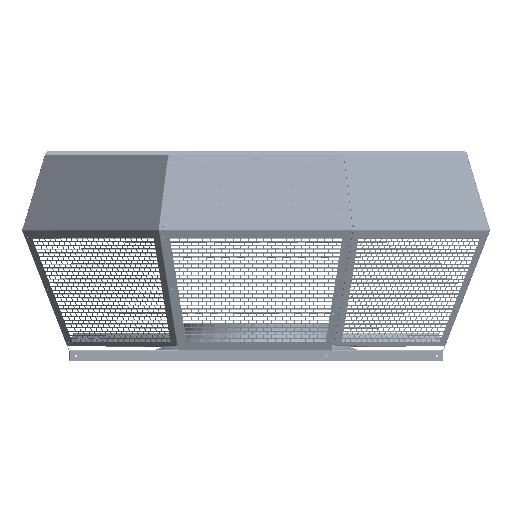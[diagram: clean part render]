
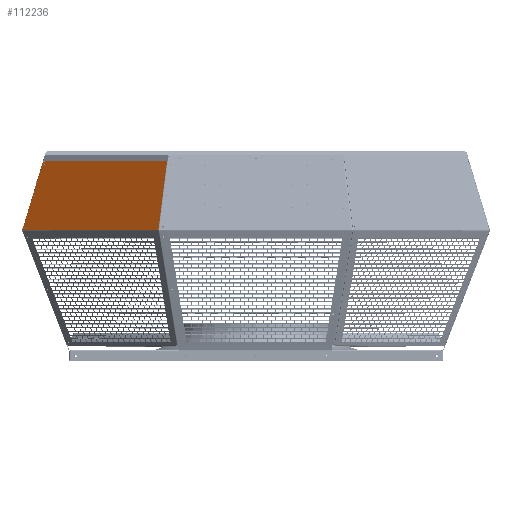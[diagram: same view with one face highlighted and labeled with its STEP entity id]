
A CAD part, top view. The second image highlights one B-rep face of the part: STEP entity #112236.
In plain terms, the highlighted planar face has unit normal (-0.677, 0.288, 0.677).
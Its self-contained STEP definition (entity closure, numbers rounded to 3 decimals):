
#51087 = CARTESIAN_POINT ( 'NONE',  ( -551.811, 83.422, 236.794 ) ) ;
#51526 = CARTESIAN_POINT ( 'NONE',  ( -222.391, 170.987, 528.943 ) ) ;
#52068 = CARTESIAN_POINT ( 'NONE',  ( -528.489, 160.914, 227.133 ) ) ;
#52528 = CARTESIAN_POINT ( 'NONE',  ( -550.955, 87.443, 235.938 ) ) ;
#53372 = CARTESIAN_POINT ( 'NONE',  ( -243.294, 1.075, 580.36 ) ) ;
#53857 = CARTESIAN_POINT ( 'NONE',  ( -222.351, 171.31, 528.846 ) ) ;
#53957 = CARTESIAN_POINT ( 'NONE',  ( -243.211, 1.127, 580.42 ) ) ;
#54181 = CARTESIAN_POINT ( 'NONE',  ( -530.847, 171.413, 220.305 ) ) ;
#54224 = CARTESIAN_POINT ( 'NONE',  ( -222.346, 171.31, 528.85 ) ) ;
#54267 = CARTESIAN_POINT ( 'NONE',  ( -582.112, 1.075, 241.542 ) ) ;
#54288 = CARTESIAN_POINT ( 'NONE',  ( -222.035, 170.987, 529.299 ) ) ;
#54298 = CARTESIAN_POINT ( 'NONE',  ( -243.287, 1.106, 580.353 ) ) ;
#54527 = CARTESIAN_POINT ( 'NONE',  ( -527.633, 164.935, 226.277 ) ) ;
#54628 = CARTESIAN_POINT ( 'NONE',  ( -222.332, 171.413, 528.821 ) ) ;
#78995 = CARTESIAN_POINT ( 'NONE',  ( -574.277, 9.951, 245.599 ) ) ;
#79006 = CARTESIAN_POINT ( 'NONE',  ( -575.133, 5.93, 246.454 ) ) ;
#112236 = ADVANCED_FACE ( 'NONE', ( #336955, #336914, #336941, #336950 ), #342925, .F. ) ;
#119699 = EDGE_CURVE ( 'NONE', #445368, #445371, #481087, .T. ) ;
#132789 = EDGE_LOOP ( 'NONE', ( #328458, #328462 ) ) ;
#132794 = EDGE_LOOP ( 'NONE', ( #328484, #328488, #328495, #328500, #328503, #328507, #328512, #328516, #328523, #328528 ) ) ;
#132806 = EDGE_LOOP ( 'NONE', ( #328468, #328471 ) ) ;
#132822 = EDGE_LOOP ( 'NONE', ( #328475, #328480 ) ) ;
#160613 = LINE ( 'NONE', #161875, #160620 ) ;
#160620 = VECTOR ( 'NONE', #161880, 1000. ) ;
#160640 = LINE ( 'NONE', #161945, #160648 ) ;
#160648 = VECTOR ( 'NONE', #161952, 1000. ) ;
#160705 = LINE ( 'NONE', #162114, #160710 ) ;
#160710 = VECTOR ( 'NONE', #162120, 1000. ) ;
#161037 = CIRCLE ( 'NONE', #453556, 2.1 ) ;
#161047 = CIRCLE ( 'NONE', #453560, 2.1 ) ;
#161875 = CARTESIAN_POINT ( 'NONE',  ( -205.291, 171.413, 545.862 ) ) ;
#161880 = DIRECTION ( 'NONE',  ( 0.707, 0., 0.707 ) ) ;
#161945 = CARTESIAN_POINT ( 'NONE',  ( -530.878, 171.31, 220.318 ) ) ;
#161952 = DIRECTION ( 'NONE',  ( 0.286, 0.951, -0.119 ) ) ;
#162114 = CARTESIAN_POINT ( 'NONE',  ( -243.251, 0.808, 580.516 ) ) ;
#162120 = DIRECTION ( 'NONE',  ( 0.119, 0.951, -0.286 ) ) ;
#162893 = CARTESIAN_POINT ( 'NONE',  ( -574.705, 7.941, 246.027 ) ) ;
#162897 = DIRECTION ( 'NONE',  ( -0.677, 0.288, 0.677 ) ) ;
#162900 = DIRECTION ( 'NONE',  ( -0.204, -0.958, 0.204 ) ) ;
#162919 = CARTESIAN_POINT ( 'NONE',  ( -528.061, 162.924, 226.705 ) ) ;
#162923 = DIRECTION ( 'NONE',  ( -0.677, 0.288, 0.677 ) ) ;
#162926 = DIRECTION ( 'NONE',  ( -0.204, -0.958, 0.204 ) ) ;
#162943 = CARTESIAN_POINT ( 'NONE',  ( -528.061, 162.924, 226.705 ) ) ;
#162946 = DIRECTION ( 'NONE',  ( -0.677, 0.288, 0.677 ) ) ;
#162949 = DIRECTION ( 'NONE',  ( -0.204, -0.958, 0.204 ) ) ;
#162968 = CARTESIAN_POINT ( 'NONE',  ( -551.383, 85.433, 236.366 ) ) ;
#162972 = DIRECTION ( 'NONE',  ( -0.677, 0.288, 0.677 ) ) ;
#162976 = DIRECTION ( 'NONE',  ( -0.204, -0.958, 0.204 ) ) ;
#162991 = CARTESIAN_POINT ( 'NONE',  ( -220.881, 181.844, 525.832 ) ) ;
#162994 = CARTESIAN_POINT ( 'NONE',  ( -551.383, 85.433, 236.366 ) ) ;
#162998 = DIRECTION ( 'NONE',  ( -0.677, 0.288, 0.677 ) ) ;
#163002 = DIRECTION ( 'NONE',  ( -0.204, -0.958, 0.204 ) ) ;
#163008 = CARTESIAN_POINT ( 'NONE',  ( -221.995, 171.31, 529.202 ) ) ;
#163013 = DIRECTION ( 'NONE',  ( 0.707, 0., 0.707 ) ) ;
#163021 = CARTESIAN_POINT ( 'NONE',  ( -243.674, -0.713, 580.74 ) ) ;
#163027 = DIRECTION ( 'NONE',  ( -0.133, -0.953, 0.273 ) ) ;
#163046 = CARTESIAN_POINT ( 'NONE',  ( -241.542, 1.075, 582.112 ) ) ;
#163053 = DIRECTION ( 'NONE',  ( -0.707, 0., -0.707 ) ) ;
#163065 = DIRECTION ( 'NONE',  ( -0.204, -0.958, 0.204 ) ) ;
#163084 = CARTESIAN_POINT ( 'NONE',  ( -231.607, 4.225, 590.706 ) ) ;
#163090 = DIRECTION ( 'NONE',  ( -0.734, -0.196, -0.65 ) ) ;
#163102 = CARTESIAN_POINT ( 'NONE',  ( -222.391, 170.987, 528.943 ) ) ;
#163109 = DIRECTION ( 'NONE',  ( 0.707, 0., 0.707 ) ) ;
#163122 = CARTESIAN_POINT ( 'NONE',  ( -243.711, -0.025, 580.411 ) ) ;
#163128 = DIRECTION ( 'NONE',  ( -0.119, -0.951, 0.286 ) ) ;
#165886 = CIRCLE ( 'NONE', #453565, 2.1 ) ;
#165901 = LINE ( 'NONE', #162991, #165956 ) ;
#165906 = CIRCLE ( 'NONE', #453570, 2.1 ) ;
#165911 = CIRCLE ( 'NONE', #453575, 2.1 ) ;
#165925 = LINE ( 'NONE', #163008, #165939 ) ;
#165939 = VECTOR ( 'NONE', #163013, 1000. ) ;
#165956 = VECTOR ( 'NONE', #163027, 1000. ) ;
#165959 = LINE ( 'NONE', #163046, #165970 ) ;
#165967 = LINE ( 'NONE', #163021, #165986 ) ;
#165970 = VECTOR ( 'NONE', #163053, 1000. ) ;
#165986 = VECTOR ( 'NONE', #163065, 1000. ) ;
#165988 = LINE ( 'NONE', #163084, #165999 ) ;
#165999 = VECTOR ( 'NONE', #163090, 1000. ) ;
#166002 = LINE ( 'NONE', #163102, #166013 ) ;
#166013 = VECTOR ( 'NONE', #163109, 1000. ) ;
#166018 = LINE ( 'NONE', #163122, #166029 ) ;
#166029 = VECTOR ( 'NONE', #163128, 1000. ) ;
#229632 = EDGE_CURVE ( 'NONE', #433495, #434042, #160613, .T. ) ;
#229645 = EDGE_CURVE ( 'NONE', #433707, #433495, #160640, .T. ) ;
#229675 = EDGE_CURVE ( 'NONE', #433297, #433690, #160705, .T. ) ;
#229820 = EDGE_CURVE ( 'NONE', #445371, #445368, #161037, .T. ) ;
#229828 = EDGE_CURVE ( 'NONE', #431751, #433943, #161047, .T. ) ;
#229835 = EDGE_CURVE ( 'NONE', #433943, #431751, #165886, .T. ) ;
#229841 = EDGE_CURVE ( 'NONE', #431017, #431943, #165906, .T. ) ;
#229848 = EDGE_CURVE ( 'NONE', #431943, #431017, #165911, .T. ) ;
#229856 = EDGE_CURVE ( 'NONE', #433231, #433555, #165925, .T. ) ;
#229862 = EDGE_CURVE ( 'NONE', #434042, #433555, #165901, .T. ) ;
#229869 = EDGE_CURVE ( 'NONE', #432351, #433707, #165959, .T. ) ;
#229877 = EDGE_CURVE ( 'NONE', #433705, #432351, #165967, .T. ) ;
#229883 = EDGE_CURVE ( 'NONE', #433297, #433705, #165988, .T. ) ;
#229890 = EDGE_CURVE ( 'NONE', #431538, #433690, #166002, .T. ) ;
#229897 = EDGE_CURVE ( 'NONE', #433231, #431538, #166018, .T. ) ;
#251574 = AXIS2_PLACEMENT_3D ( 'NONE', #342884, #342932, #342937 ) ;
#328458 = ORIENTED_EDGE ( 'NONE', *, *, #229820, .F. ) ;
#328462 = ORIENTED_EDGE ( 'NONE', *, *, #119699, .F. ) ;
#328468 = ORIENTED_EDGE ( 'NONE', *, *, #229828, .F. ) ;
#328471 = ORIENTED_EDGE ( 'NONE', *, *, #229835, .F. ) ;
#328475 = ORIENTED_EDGE ( 'NONE', *, *, #229841, .F. ) ;
#328480 = ORIENTED_EDGE ( 'NONE', *, *, #229848, .F. ) ;
#328484 = ORIENTED_EDGE ( 'NONE', *, *, #229856, .T. ) ;
#328488 = ORIENTED_EDGE ( 'NONE', *, *, #229862, .F. ) ;
#328495 = ORIENTED_EDGE ( 'NONE', *, *, #229632, .F. ) ;
#328500 = ORIENTED_EDGE ( 'NONE', *, *, #229645, .F. ) ;
#328503 = ORIENTED_EDGE ( 'NONE', *, *, #229869, .F. ) ;
#328507 = ORIENTED_EDGE ( 'NONE', *, *, #229877, .F. ) ;
#328512 = ORIENTED_EDGE ( 'NONE', *, *, #229883, .F. ) ;
#328516 = ORIENTED_EDGE ( 'NONE', *, *, #229675, .T. ) ;
#328523 = ORIENTED_EDGE ( 'NONE', *, *, #229890, .F. ) ;
#328528 = ORIENTED_EDGE ( 'NONE', *, *, #229897, .F. ) ;
#336914 = FACE_BOUND ( 'NONE', #132806, .T. ) ;
#336941 = FACE_BOUND ( 'NONE', #132822, .T. ) ;
#336950 = FACE_OUTER_BOUND ( 'NONE', #132794, .T. ) ;
#336955 = FACE_BOUND ( 'NONE', #132789, .T. ) ;
#342884 = CARTESIAN_POINT ( 'NONE',  ( -241.709, 0.288, 582.279 ) ) ;
#342925 = PLANE ( 'NONE',  #251574 ) ;
#342932 = DIRECTION ( 'NONE',  ( 0.677, -0.288, -0.677 ) ) ;
#342937 = DIRECTION ( 'NONE',  ( 0.204, 0.958, -0.204 ) ) ;
#413227 = AXIS2_PLACEMENT_3D ( 'NONE', #477665, #477670, #477674 ) ;
#431017 = VERTEX_POINT ( 'NONE', #51087 ) ;
#431538 = VERTEX_POINT ( 'NONE', #51526 ) ;
#431751 = VERTEX_POINT ( 'NONE', #52068 ) ;
#431943 = VERTEX_POINT ( 'NONE', #52528 ) ;
#432351 = VERTEX_POINT ( 'NONE', #53372 ) ;
#433231 = VERTEX_POINT ( 'NONE', #53857 ) ;
#433297 = VERTEX_POINT ( 'NONE', #53957 ) ;
#433495 = VERTEX_POINT ( 'NONE', #54181 ) ;
#433555 = VERTEX_POINT ( 'NONE', #54224 ) ;
#433690 = VERTEX_POINT ( 'NONE', #54288 ) ;
#433705 = VERTEX_POINT ( 'NONE', #54298 ) ;
#433707 = VERTEX_POINT ( 'NONE', #54267 ) ;
#433943 = VERTEX_POINT ( 'NONE', #54527 ) ;
#434042 = VERTEX_POINT ( 'NONE', #54628 ) ;
#445368 = VERTEX_POINT ( 'NONE', #78995 ) ;
#445371 = VERTEX_POINT ( 'NONE', #79006 ) ;
#453556 = AXIS2_PLACEMENT_3D ( 'NONE', #162893, #162897, #162900 ) ;
#453560 = AXIS2_PLACEMENT_3D ( 'NONE', #162919, #162923, #162926 ) ;
#453565 = AXIS2_PLACEMENT_3D ( 'NONE', #162943, #162946, #162949 ) ;
#453570 = AXIS2_PLACEMENT_3D ( 'NONE', #162968, #162972, #162976 ) ;
#453575 = AXIS2_PLACEMENT_3D ( 'NONE', #162994, #162998, #163002 ) ;
#477665 = CARTESIAN_POINT ( 'NONE',  ( -574.705, 7.941, 246.027 ) ) ;
#477670 = DIRECTION ( 'NONE',  ( -0.677, 0.288, 0.677 ) ) ;
#477674 = DIRECTION ( 'NONE',  ( -0.204, -0.958, 0.204 ) ) ;
#481087 = CIRCLE ( 'NONE', #413227, 2.1 ) ;
